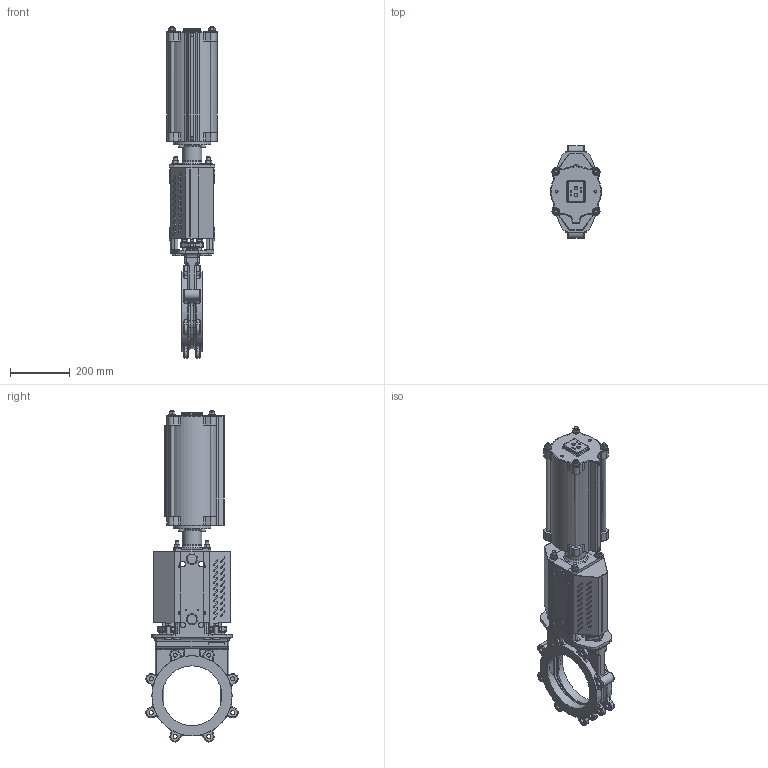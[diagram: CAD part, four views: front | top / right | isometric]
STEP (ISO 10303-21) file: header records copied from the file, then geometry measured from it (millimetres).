
FILE_DESCRIPTION(/* description */ (''),/* implementation_level */ '2;1');
FILE_NAME(/* name */ 'F:\Emir\3D-block special\WB\WB14E-DN200-PN10-FRSC160-215.stp',/* time_stamp */ '2018-04-18T13:50:56+02:00',/* author */ ('emimus'),/* organization */ (''),/* preprocessor_version */ 'ST-DEVELOPER v17',/* originating_system */ 'Autodesk Inventor 2018',/* authorisation */ '');
FILE_SCHEMA (('CONFIG_CONTROL_DESIGN'));
Products named in the file (1): WB14E-DN200-PN10-FRSC160-215
Bounding box: 170 x 309.3 x 1110.65 mm (x, y, z)
Volume: 7108571.5 mm3; surface area: 1860517.8 mm2
Topology: 3 solids, 3 shells, 3006 faces, 7862 edges, 4876 vertices
Faces by surface type: plane 1139, cylinder 940, bspline 319, torus 311, cone 197, sphere 100
Full cylindrical faces by diameter (mm): 3 x10, 3.6 x4, 4 x6, 4.134 x4, 4.2 x16, 4.5 x4, 4.917 x4, 7 x1, 8 x2, 8.376 x2, 9.5 x4, 10 x11, 10.106 x4, 11.445 x2, 12 x28, 13 x17, 13.835 x16, 15 x4, 16 x6, 17.7 x1, 18 x12, 18.5 x1, 20 x3, 24 x16, 28 x4, 30 x1, 30.1 x2, 34 x1, 35 x1, 36 x1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
Entity records: 105197 total; most frequent: CARTESIAN_POINT 31546, DIRECTION 15665, ORIENTED_EDGE 15602, EDGE_CURVE 7801, AXIS2_PLACEMENT_3D 6205, VERTEX_POINT 4876, EDGE_LOOP 3339, LINE 3255
